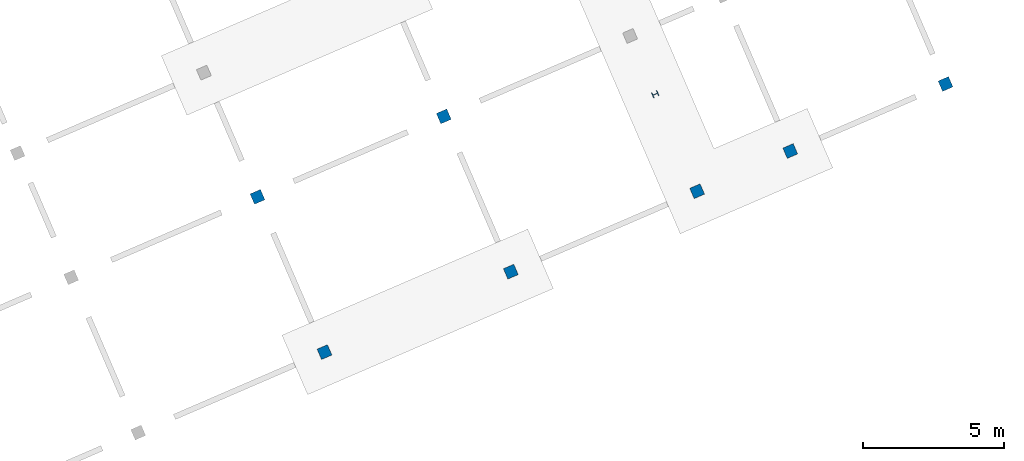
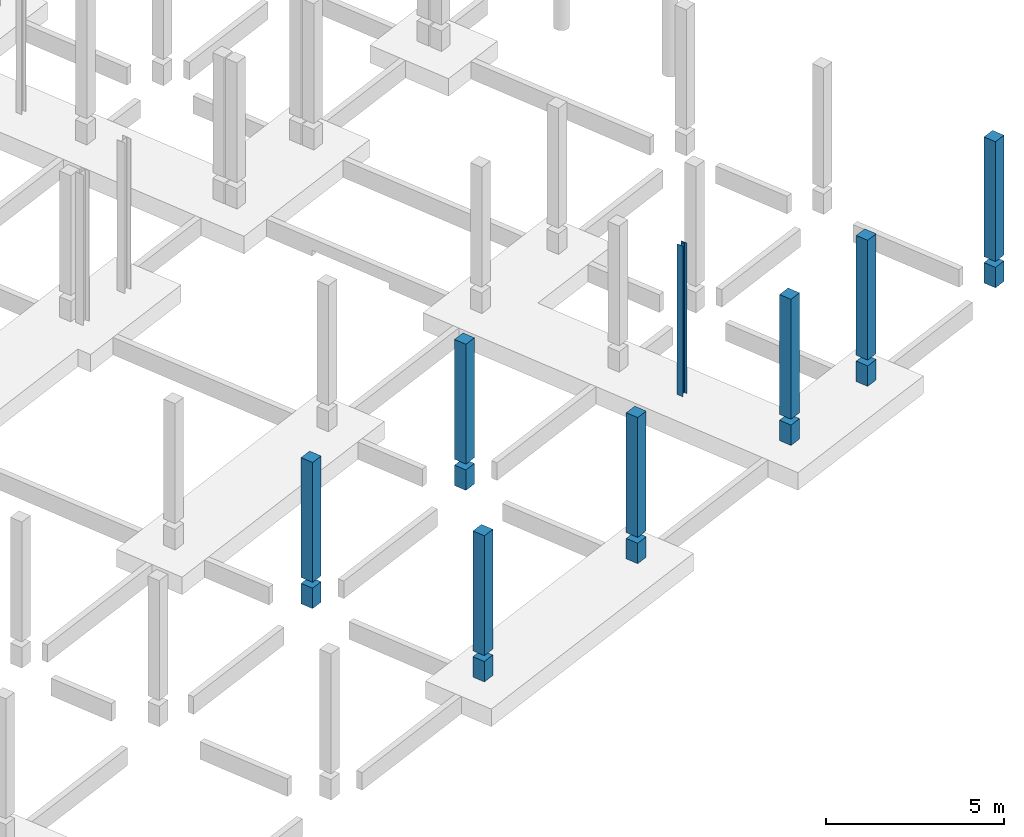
# One storey, part 3 of 11: 8 columns.
"""IFC4 building model written with IfcOpenShell, lengths in metres."""

from ifc_helpers import new_model, entity, si_unit, converted_unit, derived_unit, direction, frame, origin, place, context, subcontext, project, spatial, line, arc, indexed_curve, outline, extrude, source, transform, mapped, material, type_object, type_shapes, element, save


model = new_model("IFC4")

# Units and contexts
model_context = context("Model", 3, precision=1e-05, world=origin(), true_north=direction((6.12323399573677e-17, 1.0)))
body_context = subcontext(model_context, "Body", "Model", "MODEL_VIEW")
ifc_project = project(units=[si_unit("LENGTHUNIT", "METRE"), si_unit("AREAUNIT", "SQUARE_METRE"), si_unit("VOLUMEUNIT", "CUBIC_METRE"), converted_unit("PLANEANGLEUNIT", "DEGREE", entity("IfcPlaneAngleMeasure", 0.0174532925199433), si_unit("PLANEANGLEUNIT", "RADIAN"), dimensions=[0, 0, 0, 0, 0, 0, 0]), si_unit("MASSUNIT", "GRAM", prefix="KILO"), derived_unit("MOMENTOFINERTIAUNIT", [(si_unit("LENGTHUNIT", "METRE"), 4)]), derived_unit("LINEARFORCEUNIT", [(si_unit("MASSUNIT", "GRAM", prefix="KILO"), 1), (si_unit("TIMEUNIT", "SECOND"), -2)]), derived_unit("WARPINGCONSTANTUNIT", [(si_unit("LENGTHUNIT", "METRE"), 6)]), derived_unit("THERMALTRANSMITTANCEUNIT", [(si_unit("MASSUNIT", "GRAM", prefix="KILO"), 1), (si_unit("THERMODYNAMICTEMPERATUREUNIT", "KELVIN"), -1), (si_unit("TIMEUNIT", "SECOND"), -3)]), derived_unit("USERDEFINED", [(si_unit("MASSUNIT", "GRAM", prefix="KILO"), 1), (si_unit("TIMEUNIT", "SECOND"), -2), (si_unit("THERMODYNAMICTEMPERATUREUNIT", "KELVIN"), -1)]), derived_unit("THERMALRESISTANCEUNIT", [(si_unit("MASSUNIT", "GRAM", prefix="KILO"), -1), (si_unit("TIMEUNIT", "SECOND"), 3), (si_unit("THERMODYNAMICTEMPERATUREUNIT", "KELVIN"), 1)])], contexts=[model_context])

# Site, building, storey
site_placement = place(None, origin())
site = spatial("IfcSite", under=ifc_project, at=site_placement, Name="Default", CompositionType="ELEMENT")
building_placement = place(site_placement, frame((12.6613425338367, -82.5732315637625, 317.15), z_axis=(0.0, 0.0, 1.0), x_axis=(-0.396377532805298, 0.918087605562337, 0.0)))
building = spatial("IfcBuilding", under=site, at=building_placement, Name="CESFAM Coyhaique", CompositionType="ELEMENT")
storey_placement = place(building_placement, frame((0.0, 0.0, -0.950000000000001)))
storey = spatial("IfcBuildingStorey", under=building, at=storey_placement, Name="d_Fundaciones", CompositionType="ELEMENT", Elevation=-0.950000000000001)

# Columns
ifc_material_1 = material(Name="HA")
column_type_1 = type_object("IfcColumnType", Name="M_Concrete-Square-Column:400 x 400mm", PredefinedType="COLUMN", material=ifc_material_1)
shared_shape_1 = source(origin(), body_context, "Body", "SweptSolid", [
    extrude(outline(indexed_curve([(-0.2, -0.2), (0.2, -0.2), (0.2, 0.2), (-0.2, 0.2), (-0.2, -0.2)], self_intersect=False)), frame((4.16885341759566, 2.8028504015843, -0.950000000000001), z_axis=(0.0, 0.0, 1.0), x_axis=(-1.0, 0.0, 0.0)), (0.0, 0.0, 1.0), 0.7),
    extrude(outline(indexed_curve([(-0.2, -0.2), (0.2, -0.2), (0.2, 0.2), (-0.2, 0.2), (-0.2, -0.2)], self_intersect=False)), frame((4.16885341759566, 2.8028504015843, -0.0500000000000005), z_axis=(0.0, 0.0, 1.0), x_axis=(-1.0, 0.0, 0.0)), (0.0, 0.0, 1.0), 4.10000000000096),
])
type_shapes(column_type_1, [shared_shape_1])
column_1_placement = place(storey_placement, frame((0.0, 0.0, 0.950000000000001)))
element("IfcColumn", 1, at=column_1_placement, inside=storey, type_object=column_type_1, Name="M_Concrete-Square-Column:400 x 400mm", ObjectType="M_Concrete-Square-Column:400 x 400mm", PredefinedType="COLUMN", context=body_context, shape_type="MappedRepresentation", body=[
    mapped(shared_shape_1, transform((0.0, 0.0, 0.0), scale=1.0)),
])
column_type_2 = type_object("IfcColumnType", Name="M_Concrete-Square-Column:400 x 400mm", PredefinedType="COLUMN", material=ifc_material_1)
shared_shape_2 = source(origin(), body_context, "Body", "SweptSolid", [
    extrude(outline(indexed_curve([(-0.2, -0.2), (0.2, -0.2), (0.2, 0.2), (-0.2, 0.2), (-0.2, -0.2)], self_intersect=False)), frame((4.16885341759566, -4.39714959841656, -0.950000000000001), z_axis=(0.0, 0.0, 1.0), x_axis=(-1.0, 0.0, 0.0)), (0.0, 0.0, 1.0), 0.7),
    extrude(outline(indexed_curve([(-0.2, -0.2), (0.2, -0.2), (0.2, 0.2), (-0.2, 0.2), (-0.2, -0.2)], self_intersect=False)), frame((4.16885341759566, -4.39714959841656, -0.0500000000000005), z_axis=(0.0, 0.0, 1.0), x_axis=(-1.0, 0.0, 0.0)), (0.0, 0.0, 1.0), 4.10000000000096),
])
type_shapes(column_type_2, [shared_shape_2])
column_2_placement = place(storey_placement, frame((0.0, 0.0, 0.950000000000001)))
element("IfcColumn", 2, at=column_2_placement, inside=storey, type_object=column_type_2, Name="M_Concrete-Square-Column:400 x 400mm", ObjectType="M_Concrete-Square-Column:400 x 400mm", PredefinedType="COLUMN", context=body_context, shape_type="MappedRepresentation", body=[
    mapped(shared_shape_2, transform((0.0, 0.0, 0.0), scale=1.0)),
])
column_type_3 = type_object("IfcColumnType", Name="M_Concrete-Square-Column:400 x 400mm", PredefinedType="COLUMN", material=ifc_material_1)
shared_shape_3 = source(origin(), body_context, "Body", "SweptSolid", [
    extrude(outline(indexed_curve([(-0.2, -0.2), (0.2, -0.2), (0.2, 0.2), (-0.2, 0.2), (-0.2, -0.2)], self_intersect=False)), frame((4.16885341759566, -11.5971495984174, -0.950000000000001), z_axis=(0.0, 0.0, 1.0), x_axis=(-1.0, 0.0, 0.0)), (0.0, 0.0, 1.0), 0.7),
    extrude(outline(indexed_curve([(-0.2, -0.2), (0.2, -0.2), (0.2, 0.2), (-0.2, 0.2), (-0.2, -0.2)], self_intersect=False)), frame((4.16885341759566, -11.5971495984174, -0.0500000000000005), z_axis=(0.0, 0.0, 1.0), x_axis=(-1.0, 0.0, 0.0)), (0.0, 0.0, 1.0), 4.10000000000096),
])
type_shapes(column_type_3, [shared_shape_3])
column_3_placement = place(storey_placement, frame((0.0, 0.0, 0.950000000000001)))
element("IfcColumn", 3, at=column_3_placement, inside=storey, type_object=column_type_3, Name="M_Concrete-Square-Column:400 x 400mm", ObjectType="M_Concrete-Square-Column:400 x 400mm", PredefinedType="COLUMN", context=body_context, shape_type="MappedRepresentation", body=[
    mapped(shared_shape_3, transform((0.0, 0.0, 0.0), scale=1.0)),
])
column_type_4 = type_object("IfcColumnType", Name="M_Concrete-Square-Column:400 x 400mm", PredefinedType="COLUMN", material=ifc_material_1)
shared_shape_4 = source(origin(), body_context, "Body", "SweptSolid", [
    extrude(outline(indexed_curve([(-0.2, -0.199999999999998), (0.2, -0.199999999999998), (0.2, 0.200000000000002), (-0.2, 0.200000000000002), (-0.2, -0.199999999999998)], self_intersect=False)), frame((4.16885341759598, -21.1971495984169, -0.950000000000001), z_axis=(0.0, 0.0, 1.0), x_axis=(-1.0, 0.0, 0.0)), (0.0, 0.0, 1.0), 0.7),
    extrude(outline(indexed_curve([(-0.2, -0.200000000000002), (0.2, -0.199999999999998), (0.2, 0.199999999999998), (-0.2, 0.199999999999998), (-0.2, -0.200000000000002)], self_intersect=False)), frame((4.16885341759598, -21.1971495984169, -0.0500000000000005), z_axis=(0.0, 0.0, 1.0), x_axis=(-1.0, 0.0, 0.0)), (0.0, 0.0, 1.0), 4.10000000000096),
])
type_shapes(column_type_4, [shared_shape_4])
column_4_placement = place(storey_placement, frame((0.0, 0.0, 0.950000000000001)))
element("IfcColumn", 4, at=column_4_placement, inside=storey, type_object=column_type_4, Name="M_Concrete-Square-Column:400 x 400mm", ObjectType="M_Concrete-Square-Column:400 x 400mm", PredefinedType="COLUMN", context=body_context, shape_type="MappedRepresentation", body=[
    mapped(shared_shape_4, transform((0.0, 0.0, 0.0), scale=1.0)),
])
column_type_5 = type_object("IfcColumnType", Name="M_Concrete-Square-Column:400 x 400mm", PredefinedType="COLUMN", material=ifc_material_1)
shared_shape_5 = source(origin(), body_context, "Body", "SweptSolid", [
    extrude(outline(indexed_curve([(-0.2, -0.2), (0.2, -0.2), (0.2, 0.2), (-0.2, 0.2), (-0.2, -0.2)], self_intersect=False)), frame((10.1688534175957, 2.8028504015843, -0.950000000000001), z_axis=(0.0, 0.0, 1.0), x_axis=(-1.0, 0.0, 0.0)), (0.0, 0.0, 1.0), 0.7),
    extrude(outline(indexed_curve([(-0.2, -0.2), (0.2, -0.2), (0.2, 0.2), (-0.2, 0.2), (-0.2, -0.2)], self_intersect=False)), frame((10.1688534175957, 2.8028504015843, -0.0500000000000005), z_axis=(0.0, 0.0, 1.0), x_axis=(-1.0, 0.0, 0.0)), (0.0, 0.0, 1.0), 4.10000000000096),
])
type_shapes(column_type_5, [shared_shape_5])
column_5_placement = place(storey_placement, frame((0.0, 0.0, 0.950000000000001)))
element("IfcColumn", 5, at=column_5_placement, inside=storey, type_object=column_type_5, Name="M_Concrete-Square-Column:400 x 400mm", ObjectType="M_Concrete-Square-Column:400 x 400mm", PredefinedType="COLUMN", context=body_context, shape_type="MappedRepresentation", body=[
    mapped(shared_shape_5, transform((0.0, 0.0, 0.0), scale=1.0)),
])
column_type_6 = type_object("IfcColumnType", Name="M_Concrete-Square-Column:400 x 400mm", PredefinedType="COLUMN", material=ifc_material_1)
shared_shape_6 = source(origin(), body_context, "Body", "SweptSolid", [
    extrude(outline(indexed_curve([(-0.2, -0.2), (0.2, -0.2), (0.2, 0.2), (-0.2, 0.2), (-0.2, -0.2)], self_intersect=False)), frame((10.1688534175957, -4.39714959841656, -0.950000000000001), z_axis=(0.0, 0.0, 1.0), x_axis=(-1.0, 0.0, 0.0)), (0.0, 0.0, 1.0), 0.7),
    extrude(outline(indexed_curve([(-0.2, -0.2), (0.2, -0.2), (0.2, 0.2), (-0.2, 0.2), (-0.2, -0.2)], self_intersect=False)), frame((10.1688534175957, -4.39714959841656, -0.0500000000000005), z_axis=(0.0, 0.0, 1.0), x_axis=(-1.0, 0.0, 0.0)), (0.0, 0.0, 1.0), 4.10000000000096),
])
type_shapes(column_type_6, [shared_shape_6])
column_6_placement = place(storey_placement, frame((0.0, 0.0, 0.950000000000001)))
element("IfcColumn", 6, at=column_6_placement, inside=storey, type_object=column_type_6, Name="M_Concrete-Square-Column:400 x 400mm", ObjectType="M_Concrete-Square-Column:400 x 400mm", PredefinedType="COLUMN", context=body_context, shape_type="MappedRepresentation", body=[
    mapped(shared_shape_6, transform((0.0, 0.0, 0.0), scale=1.0)),
])
column_type_7 = type_object("IfcColumnType", Name="M_Concrete-Square-Column:400 x 400mm", PredefinedType="COLUMN", material=ifc_material_1)
shared_shape_7 = source(origin(), body_context, "Body", "SweptSolid", [
    extrude(outline(indexed_curve([(-0.2, -0.2), (0.2, -0.2), (0.2, 0.2), (-0.2, 0.2), (-0.2, -0.2)], self_intersect=False)), frame((4.16885341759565, -15.1971495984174, -0.950000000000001), z_axis=(0.0, 0.0, 1.0), x_axis=(-1.0, 0.0, 0.0)), (0.0, 0.0, 1.0), 0.7),
    extrude(outline(indexed_curve([(-0.2, -0.2), (0.2, -0.2), (0.2, 0.2), (-0.2, 0.2), (-0.2, -0.2)], self_intersect=False)), frame((4.16885341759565, -15.1971495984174, -0.0500000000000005), z_axis=(0.0, 0.0, 1.0), x_axis=(-1.0, 0.0, 0.0)), (0.0, 0.0, 1.0), 4.10000000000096),
])
type_shapes(column_type_7, [shared_shape_7])
column_7_placement = place(storey_placement, frame((0.0, 0.0, 0.950000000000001)))
element("IfcColumn", 7, at=column_7_placement, inside=storey, type_object=column_type_7, Name="M_Concrete-Square-Column:400 x 400mm", ObjectType="M_Concrete-Square-Column:400 x 400mm", PredefinedType="COLUMN", context=body_context, shape_type="MappedRepresentation", body=[
    mapped(shared_shape_7, transform((0.0, 0.0, 0.0), scale=1.0)),
])
ifc_material_2 = material(Name="Steel, 45-345", Category="Metal")
column_type_8 = type_object("IfcColumnType", Name="M_W Shapes-Column:HEA 200", PredefinedType="COLUMN", material=ifc_material_2)
shared_shape_8 = source(origin(), body_context, "Body", "SweptSolid", [
    extrude(outline(indexed_curve([(-0.0999999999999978, -0.0999999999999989), (0.100000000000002, -0.0999999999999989), (0.100000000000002, -0.0889999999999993), (0.0163850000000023, -0.0889999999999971), (0.00740474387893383, -0.0852802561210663), (0.00368500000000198, -0.0762999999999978), (0.00368500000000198, 0.0763000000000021), (0.00740474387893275, 0.0852802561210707), (0.0163850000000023, 0.0890000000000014), (0.100000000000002, 0.0890000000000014), (0.100000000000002, 0.100000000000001), (-0.0999999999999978, 0.100000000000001), (-0.0999999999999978, 0.0890000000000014), (-0.016384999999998, 0.0890000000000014), (-0.00740474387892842, 0.0852802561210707), (-0.00368499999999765, 0.0763000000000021), (-0.00368499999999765, -0.0762999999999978), (-0.00740474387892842, -0.0852802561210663), (-0.016384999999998, -0.0889999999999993), (-0.0999999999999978, -0.0889999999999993)], segments=[line(1, 2, 3, 4), arc(4, 5, 6), line(6, 7), arc(7, 8, 9), line(9, 10, 11, 12, 13, 14), arc(14, 15, 16), line(16, 17), arc(17, 18, 19), line(19, 20, 1)], self_intersect=False)), frame((7.91885341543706, -11.5971495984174, -0.950000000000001), z_axis=(0.0, 0.0, 1.0), x_axis=(-1.0, 0.0, 0.0)), (0.0, 0.0, 1.0), 5.15000000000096),
])
type_shapes(column_type_8, [shared_shape_8])
column_8_placement = place(storey_placement, frame((0.0, 0.0, 0.950000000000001)))
element("IfcColumn", 8, at=column_8_placement, inside=storey, type_object=column_type_8, Name="M_W Shapes-Column:HEA 200", ObjectType="M_W Shapes-Column:HEA 200", PredefinedType="COLUMN", context=body_context, shape_type="MappedRepresentation", body=[
    mapped(shared_shape_8, transform((0.0, 0.0, 0.0), scale=1.0)),
])

save(model, "model.ifc")
